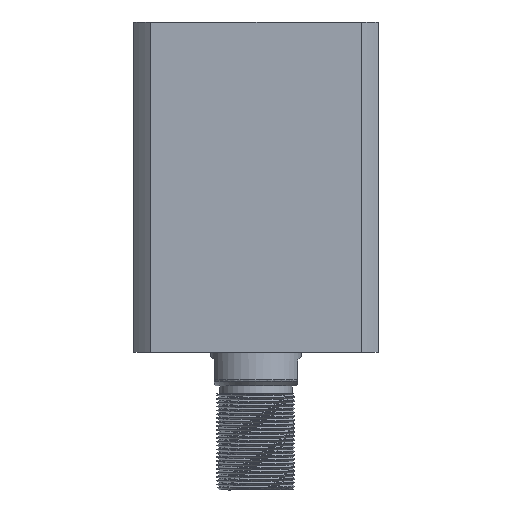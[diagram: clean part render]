
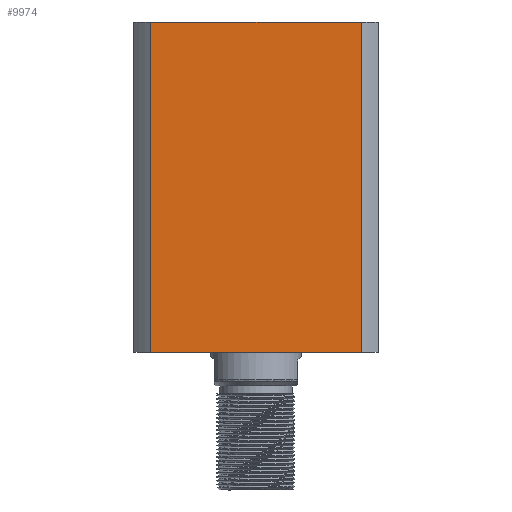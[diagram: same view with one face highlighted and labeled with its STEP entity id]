
A CAD part, front view. The second image highlights one B-rep face of the part: STEP entity #9974.
In plain terms, the highlighted planar face has unit normal (0, -1, 0) as drawn and (0, 1, 0) by its records, which use the part's own axes.
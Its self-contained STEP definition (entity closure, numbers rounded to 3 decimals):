
#287 = PLANE ( 'NONE',  #2466 ) ;
#1674 = EDGE_LOOP ( 'NONE', ( #13426, #1972, #17654, #14711 ) ) ;
#1972 = ORIENTED_EDGE ( 'NONE', *, *, #15289, .T. ) ;
#2030 = DIRECTION ( 'NONE',  ( 0., 0., 1. ) ) ;
#2466 = AXIS2_PLACEMENT_3D ( 'NONE', #3827, #19426, #9110 ) ;
#3827 = CARTESIAN_POINT ( 'NONE',  ( -47., 47., 127. ) ) ;
#3922 = CARTESIAN_POINT ( 'NONE',  ( -40.435, 47., 0. ) ) ;
#3948 = LINE ( 'NONE', #21543, #8589 ) ;
#4218 = LINE ( 'NONE', #14258, #7197 ) ;
#4227 = EDGE_CURVE ( 'NONE', #13448, #8800, #3948, .T. ) ;
#5496 = EDGE_CURVE ( 'NONE', #8421, #13448, #4218, .T. ) ;
#6226 = LINE ( 'NONE', #21972, #14448 ) ;
#7197 = VECTOR ( 'NONE', #2030, 1000. ) ;
#7226 = DIRECTION ( 'NONE',  ( 0., 0., -1. ) ) ;
#7378 = EDGE_CURVE ( 'NONE', #8800, #12617, #9664, .T. ) ;
#8421 = VERTEX_POINT ( 'NONE', #22112 ) ;
#8589 = VECTOR ( 'NONE', #11283, 1000. ) ;
#8800 = VERTEX_POINT ( 'NONE', #10238 ) ;
#9110 = DIRECTION ( 'NONE',  ( 0., 0., -1. ) ) ;
#9664 = LINE ( 'NONE', #10682, #18822 ) ;
#9968 = DIRECTION ( 'NONE',  ( -1., 0., 0. ) ) ;
#9974 = ADVANCED_FACE ( 'NONE', ( #10835 ), #287, .F. ) ;
#10238 = CARTESIAN_POINT ( 'NONE',  ( -40.435, 47., 127. ) ) ;
#10682 = CARTESIAN_POINT ( 'NONE',  ( -40.435, 47., -2873. ) ) ;
#10835 = FACE_OUTER_BOUND ( 'NONE', #1674, .T. ) ;
#11283 = DIRECTION ( 'NONE',  ( -1., 0., 0. ) ) ;
#12617 = VERTEX_POINT ( 'NONE', #3922 ) ;
#12697 = CARTESIAN_POINT ( 'NONE',  ( 40.435, 47., 127. ) ) ;
#13426 = ORIENTED_EDGE ( 'NONE', *, *, #5496, .F. ) ;
#13448 = VERTEX_POINT ( 'NONE', #12697 ) ;
#14258 = CARTESIAN_POINT ( 'NONE',  ( 40.435, 47., -2873. ) ) ;
#14448 = VECTOR ( 'NONE', #9968, 1000. ) ;
#14711 = ORIENTED_EDGE ( 'NONE', *, *, #4227, .F. ) ;
#15289 = EDGE_CURVE ( 'NONE', #8421, #12617, #6226, .T. ) ;
#17654 = ORIENTED_EDGE ( 'NONE', *, *, #7378, .F. ) ;
#18822 = VECTOR ( 'NONE', #7226, 1000. ) ;
#19426 = DIRECTION ( 'NONE',  ( 0., -1., 0. ) ) ;
#21543 = CARTESIAN_POINT ( 'NONE',  ( -47., 47., 127. ) ) ;
#21972 = CARTESIAN_POINT ( 'NONE',  ( -47., 47., 0. ) ) ;
#22112 = CARTESIAN_POINT ( 'NONE',  ( 40.435, 47., 0. ) ) ;
